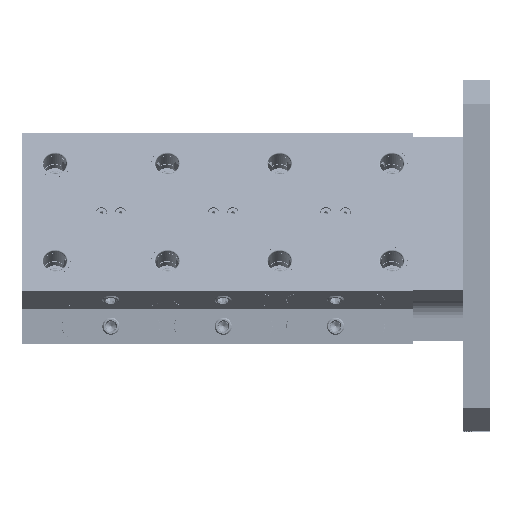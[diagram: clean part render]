
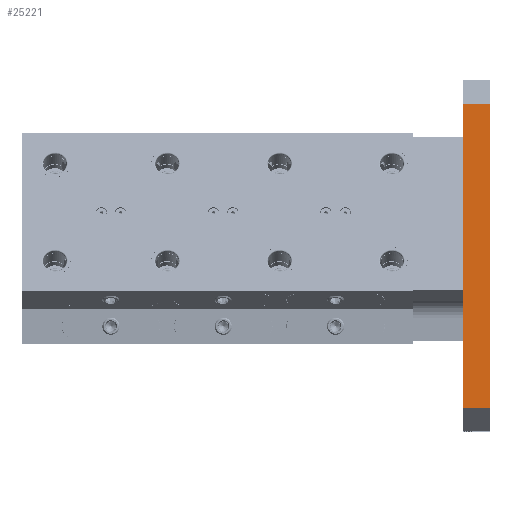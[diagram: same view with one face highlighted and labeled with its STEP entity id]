
A CAD part, left-side view. The second image highlights one B-rep face of the part: STEP entity #25221.
In plain terms, the highlighted planar face has unit normal (-1, 0, 0).
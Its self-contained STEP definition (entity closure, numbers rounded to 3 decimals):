
#756 = FACE_OUTER_BOUND ( 'NONE', #21504, .T. ) ;
#1615 = CARTESIAN_POINT ( 'NONE',  ( -150., 23., -130. ) ) ;
#2806 = CARTESIAN_POINT ( 'NONE',  ( -150., 0., 150. ) ) ;
#3395 = ORIENTED_EDGE ( 'NONE', *, *, #22849, .T. ) ;
#4157 = DIRECTION ( 'NONE',  ( 0., 0., 1. ) ) ;
#5341 = VECTOR ( 'NONE', #17825, 1000. ) ;
#5616 = DIRECTION ( 'NONE',  ( 1., 0., 0. ) ) ;
#6498 = CARTESIAN_POINT ( 'NONE',  ( -150., 23., 130. ) ) ;
#7630 = EDGE_CURVE ( 'NONE', #28621, #27116, #27649, .T. ) ;
#7736 = ORIENTED_EDGE ( 'NONE', *, *, #7630, .T. ) ;
#8310 = VERTEX_POINT ( 'NONE', #10946 ) ;
#9868 = CARTESIAN_POINT ( 'NONE',  ( -150., 23., 150. ) ) ;
#10039 = CARTESIAN_POINT ( 'NONE',  ( -150., 0., 130. ) ) ;
#10815 = CARTESIAN_POINT ( 'NONE',  ( -150., 23., 130. ) ) ;
#10946 = CARTESIAN_POINT ( 'NONE',  ( -150., 23., -130. ) ) ;
#11653 = LINE ( 'NONE', #2806, #28096 ) ;
#11792 = DIRECTION ( 'NONE',  ( 0., 0., 1. ) ) ;
#12532 = EDGE_CURVE ( 'NONE', #8310, #27116, #19937, .T. ) ;
#12838 = EDGE_CURVE ( 'NONE', #26200, #28621, #11653, .T. ) ;
#12941 = DIRECTION ( 'NONE',  ( 0., -1., 0. ) ) ;
#14001 = CARTESIAN_POINT ( 'NONE',  ( -150., 0., -130. ) ) ;
#16649 = DIRECTION ( 'NONE',  ( 0., 0., -1. ) ) ;
#16928 = AXIS2_PLACEMENT_3D ( 'NONE', #9868, #5616, #16649 ) ;
#17825 = DIRECTION ( 'NONE',  ( 0., 1., 0. ) ) ;
#17859 = ORIENTED_EDGE ( 'NONE', *, *, #12532, .F. ) ;
#19642 = ORIENTED_EDGE ( 'NONE', *, *, #12838, .T. ) ;
#19937 = LINE ( 'NONE', #21436, #21045 ) ;
#21045 = VECTOR ( 'NONE', #4157, 1000. ) ;
#21436 = CARTESIAN_POINT ( 'NONE',  ( -150., 23., 150. ) ) ;
#21504 = EDGE_LOOP ( 'NONE', ( #17859, #3395, #19642, #7736 ) ) ;
#21814 = LINE ( 'NONE', #1615, #24342 ) ;
#22849 = EDGE_CURVE ( 'NONE', #8310, #26200, #21814, .T. ) ;
#23302 = PLANE ( 'NONE',  #16928 ) ;
#24342 = VECTOR ( 'NONE', #12941, 1000. ) ;
#25221 = ADVANCED_FACE ( 'NONE', ( #756 ), #23302, .F. ) ;
#26200 = VERTEX_POINT ( 'NONE', #14001 ) ;
#27116 = VERTEX_POINT ( 'NONE', #10815 ) ;
#27649 = LINE ( 'NONE', #6498, #5341 ) ;
#28096 = VECTOR ( 'NONE', #11792, 1000. ) ;
#28621 = VERTEX_POINT ( 'NONE', #10039 ) ;
